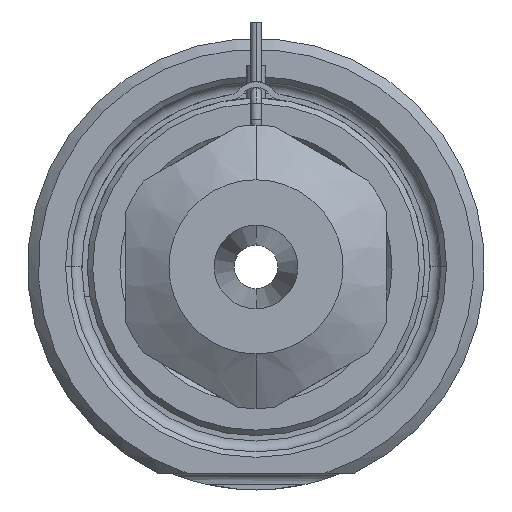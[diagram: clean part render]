
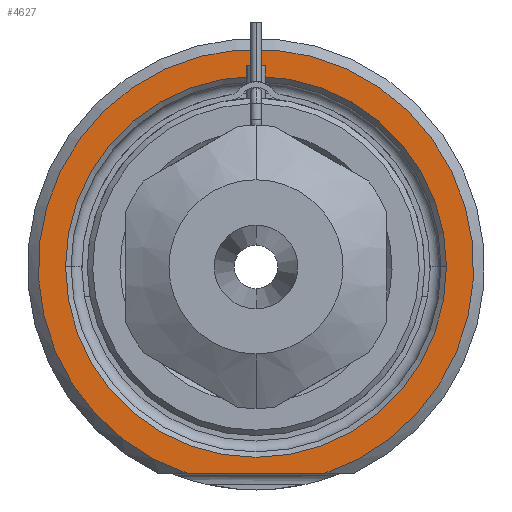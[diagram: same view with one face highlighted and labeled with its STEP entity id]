
A CAD part, front view. The second image highlights one B-rep face of the part: STEP entity #4627.
In plain terms, the highlighted planar face has unit normal (0, -1, 0).
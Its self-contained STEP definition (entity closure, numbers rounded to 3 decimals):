
#1597=CARTESIAN_POINT('',(0.,0.,0.));
#1598=DIRECTION('',(0.,-1.,0.));
#1599=DIRECTION('',(0.312,0.,-0.95));
#1600=AXIS2_PLACEMENT_3D('',#1597,#1598,#1599);
#1621=DIRECTION('',(1.,0.,0.));
#1622=VECTOR('',#1621,12.49);
#1623=CARTESIAN_POINT('',(-6.245,0.,-19.));
#1624=LINE('',#1623,#1622);
#1625=CARTESIAN_POINT('',(0.,0.,0.));
#1626=DIRECTION('',(0.,1.,0.));
#1627=DIRECTION('',(-1.,0.,0.));
#1628=AXIS2_PLACEMENT_3D('',#1625,#1626,#1627);
#1630=CARTESIAN_POINT('',(0.,0.,0.));
#1631=DIRECTION('',(0.,1.,0.));
#1632=DIRECTION('',(1.,0.,0.));
#1633=AXIS2_PLACEMENT_3D('',#1630,#1631,#1632);
#2509=CARTESIAN_POINT('',(-17.5,0.,0.));
#2510=CARTESIAN_POINT('',(17.5,0.,0.));
#2511=VERTEX_POINT('',#2509);
#2512=VERTEX_POINT('',#2510);
#2553=CARTESIAN_POINT('',(-6.245,0.,-19.));
#2554=CARTESIAN_POINT('',(6.245,0.,-19.));
#2555=VERTEX_POINT('',#2553);
#2556=VERTEX_POINT('',#2554);
#4612=CARTESIAN_POINT('',(0.,0.,0.));
#4613=DIRECTION('',(0.,-1.,0.));
#4614=DIRECTION('',(1.,0.,0.));
#4615=AXIS2_PLACEMENT_3D('',#4612,#4613,#4614);
#4616=PLANE('',#4615);
#4617=ORIENTED_EDGE('',*,*,#4544,.F.);
#4618=ORIENTED_EDGE('',*,*,#4604,.F.);
#4619=EDGE_LOOP('',(#4617,#4618));
#4620=FACE_OUTER_BOUND('',#4619,.F.);
#4622=ORIENTED_EDGE('',*,*,#4621,.F.);
#4624=ORIENTED_EDGE('',*,*,#4623,.F.);
#4625=EDGE_LOOP('',(#4622,#4624));
#4626=FACE_BOUND('',#4625,.F.);
#4627=ADVANCED_FACE('',(#4620,#4626),#4616,.T.);
#1601=CIRCLE('',#1600,20.);
#1629=CIRCLE('',#1628,17.5);
#1634=CIRCLE('',#1633,17.5);
#4544=EDGE_CURVE('',#2555,#2556,#1624,.T.);
#4604=EDGE_CURVE('',#2556,#2555,#1601,.T.);
#4621=EDGE_CURVE('',#2511,#2512,#1629,.T.);
#4623=EDGE_CURVE('',#2512,#2511,#1634,.T.);
